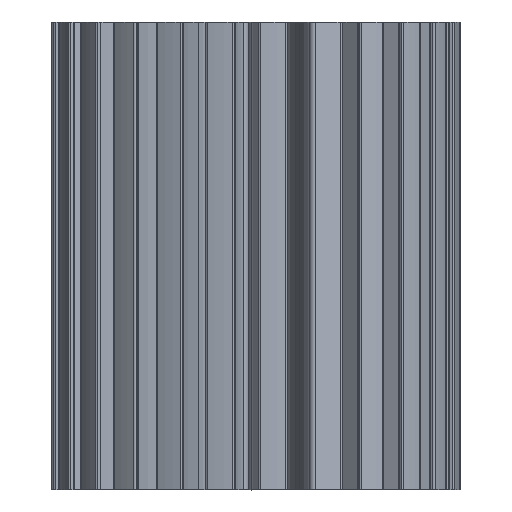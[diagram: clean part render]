
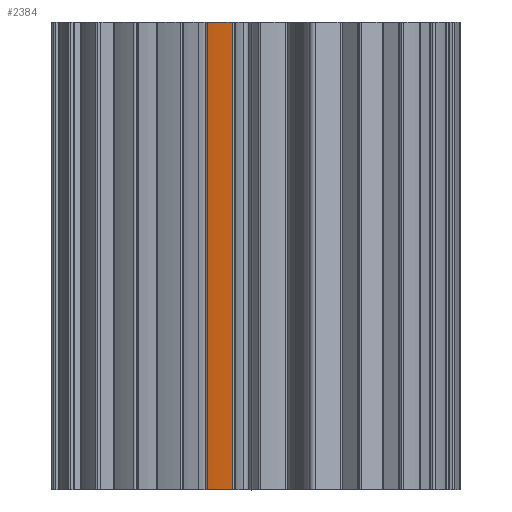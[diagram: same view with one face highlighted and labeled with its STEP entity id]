
A CAD part, top view. The second image highlights one B-rep face of the part: STEP entity #2384.
In plain terms, the highlighted cylindrical face has radius 35 mm (diameter 70 mm), a partial arc.
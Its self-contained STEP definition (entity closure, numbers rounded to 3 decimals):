
#411 = EDGE_CURVE ( 'NONE', #8789, #7471, #1923, .T. ) ;
#606 = DIRECTION ( 'NONE',  ( 0., -1., 0. ) ) ;
#649 = CARTESIAN_POINT ( 'NONE',  ( -8.374, 12.728, 33.984 ) ) ;
#1111 = CIRCLE ( 'NONE', #3020, 35. ) ;
#1413 = AXIS2_PLACEMENT_3D ( 'NONE', #2925, #3847, #8484 ) ;
#1506 = CARTESIAN_POINT ( 'NONE',  ( 0., 104.172, 0. ) ) ;
#1923 = LINE ( 'NONE', #649, #6860 ) ;
#2129 = ORIENTED_EDGE ( 'NONE', *, *, #411, .T. ) ;
#2384 = ADVANCED_FACE ( 'NONE', ( #5932 ), #10309, .T. ) ;
#2458 = DIRECTION ( 'NONE',  ( 0., 0., 1. ) ) ;
#2925 = CARTESIAN_POINT ( 'NONE',  ( 0., 12.728, 0. ) ) ;
#3020 = AXIS2_PLACEMENT_3D ( 'NONE', #1506, #8012, #2458 ) ;
#3196 = VERTEX_POINT ( 'NONE', #7974 ) ;
#3847 = DIRECTION ( 'NONE',  ( 0., 1., 0. ) ) ;
#3954 = LINE ( 'NONE', #7189, #11099 ) ;
#3959 = ORIENTED_EDGE ( 'NONE', *, *, #9298, .T. ) ;
#4426 = DIRECTION ( 'NONE',  ( 0., 1., 0. ) ) ;
#5247 = CARTESIAN_POINT ( 'NONE',  ( 0., 24.172, 0. ) ) ;
#5932 = FACE_OUTER_BOUND ( 'NONE', #6353, .T. ) ;
#6172 = DIRECTION ( 'NONE',  ( 0., 0., -1. ) ) ;
#6230 = CARTESIAN_POINT ( 'NONE',  ( -8.374, 104.172, 33.984 ) ) ;
#6353 = EDGE_LOOP ( 'NONE', ( #2129, #3959, #6601, #11425 ) ) ;
#6601 = ORIENTED_EDGE ( 'NONE', *, *, #11319, .T. ) ;
#6860 = VECTOR ( 'NONE', #606, 1000. ) ;
#7189 = CARTESIAN_POINT ( 'NONE',  ( -4.063, 12.728, 34.763 ) ) ;
#7471 = VERTEX_POINT ( 'NONE', #7803 ) ;
#7552 = AXIS2_PLACEMENT_3D ( 'NONE', #5247, #11748, #6172 ) ;
#7803 = CARTESIAN_POINT ( 'NONE',  ( -8.374, 24.172, 33.984 ) ) ;
#7974 = CARTESIAN_POINT ( 'NONE',  ( -4.063, 104.172, 34.763 ) ) ;
#8012 = DIRECTION ( 'NONE',  ( 0., 1., 0. ) ) ;
#8484 = DIRECTION ( 'NONE',  ( 0., 0., 1. ) ) ;
#8726 = EDGE_CURVE ( 'NONE', #8789, #3196, #1111, .T. ) ;
#8789 = VERTEX_POINT ( 'NONE', #6230 ) ;
#9298 = EDGE_CURVE ( 'NONE', #7471, #11812, #9514, .T. ) ;
#9514 = CIRCLE ( 'NONE', #7552, 35. ) ;
#10309 = CYLINDRICAL_SURFACE ( 'NONE', #1413, 35. ) ;
#11099 = VECTOR ( 'NONE', #4426, 1000. ) ;
#11319 = EDGE_CURVE ( 'NONE', #11812, #3196, #3954, .T. ) ;
#11425 = ORIENTED_EDGE ( 'NONE', *, *, #8726, .F. ) ;
#11728 = CARTESIAN_POINT ( 'NONE',  ( -4.063, 24.172, 34.763 ) ) ;
#11748 = DIRECTION ( 'NONE',  ( 0., 1., 0. ) ) ;
#11812 = VERTEX_POINT ( 'NONE', #11728 ) ;
